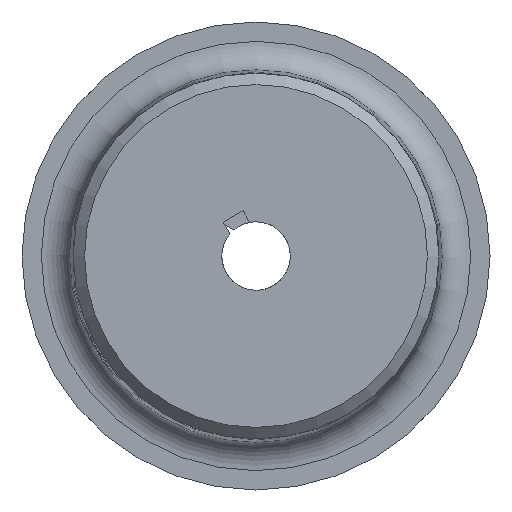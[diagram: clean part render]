
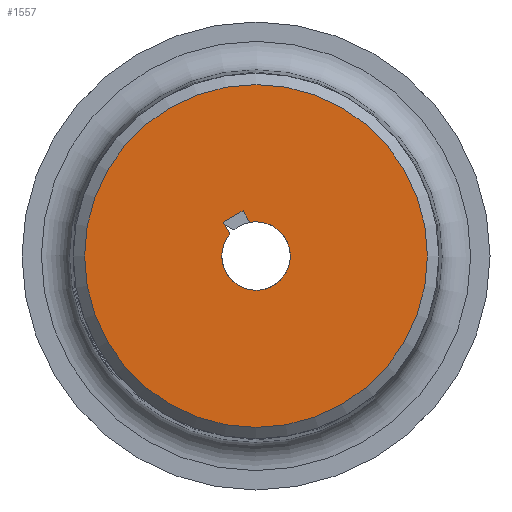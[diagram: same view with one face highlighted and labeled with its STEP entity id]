
A CAD part, left-side view. The second image highlights one B-rep face of the part: STEP entity #1557.
In plain terms, the highlighted planar face has unit normal (-1, 0, 0) as drawn and (0, 0, -1) by its records, which use the part's own axes.
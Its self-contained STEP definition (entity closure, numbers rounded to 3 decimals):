
#77=FACE_BOUND('',#497,.T.);
#269=CIRCLE('',#1784,3.);
#302=CIRCLE('',#1841,15.019);
#390=FACE_OUTER_BOUND('',#496,.T.);
#496=EDGE_LOOP('',(#1427));
#497=EDGE_LOOP('',(#1428,#1429,#1430,#1431));
#531=LINE('',#3665,#574);
#534=LINE('',#3671,#577);
#537=LINE('',#3677,#580);
#574=VECTOR('',#2136,10.);
#577=VECTOR('',#2141,10.);
#580=VECTOR('',#2146,10.);
#701=VERTEX_POINT('',#3662);
#702=VERTEX_POINT('',#3664);
#704=VERTEX_POINT('',#3670);
#706=VERTEX_POINT('',#3676);
#741=VERTEX_POINT('',#3890);
#913=EDGE_CURVE('',#702,#701,#531,.T.);
#916=EDGE_CURVE('',#704,#702,#534,.T.);
#919=EDGE_CURVE('',#706,#704,#537,.T.);
#922=EDGE_CURVE('',#701,#706,#269,.T.);
#973=EDGE_CURVE('',#741,#741,#302,.T.);
#1427=ORIENTED_EDGE('',*,*,#973,.F.);
#1428=ORIENTED_EDGE('',*,*,#919,.T.);
#1429=ORIENTED_EDGE('',*,*,#916,.T.);
#1430=ORIENTED_EDGE('',*,*,#913,.T.);
#1431=ORIENTED_EDGE('',*,*,#922,.T.);
#1469=PLANE('',#1840);
#1557=ADVANCED_FACE('',(#390,#77),#1469,.T.);
#1784=AXIS2_PLACEMENT_3D('',#3681,#2152,#2153);
#1840=AXIS2_PLACEMENT_3D('',#3889,#2267,#2268);
#1841=AXIS2_PLACEMENT_3D('',#3891,#2269,#2270);
#2136=DIRECTION('',(1.,0.,0.));
#2141=DIRECTION('',(0.,-1.,0.));
#2146=DIRECTION('',(-1.,0.,0.));
#2152=DIRECTION('center_axis',(0.,0.,
1.));
#2153=DIRECTION('ref_axis',(1.,0.,0.));
#2267=DIRECTION('center_axis',(0.,0.,
-1.));
#2268=DIRECTION('ref_axis',(0.,-1.,0.));
#2269=DIRECTION('center_axis',(0.,0.,
1.));
#2270=DIRECTION('ref_axis',(0.,-1.,0.));
#3662=CARTESIAN_POINT('',(-2.828,-1.,-25.));
#3664=CARTESIAN_POINT('',(-4.,-1.,-25.));
#3665=CARTESIAN_POINT('',(-2.,-1.,-25.));
#3670=CARTESIAN_POINT('',(-4.,1.,-25.));
#3671=CARTESIAN_POINT('',(-4.,0.5,-25.));
#3676=CARTESIAN_POINT('',(-2.828,1.,-25.));
#3677=CARTESIAN_POINT('',(-1.414,1.,-25.));
#3681=CARTESIAN_POINT('Origin',(0.,0.,
-25.));
#3889=CARTESIAN_POINT('Origin',(0.,0.,
-25.));
#3890=CARTESIAN_POINT('',(0.,15.019,-25.));
#3891=CARTESIAN_POINT('Origin',(0.,0.,-25.));
